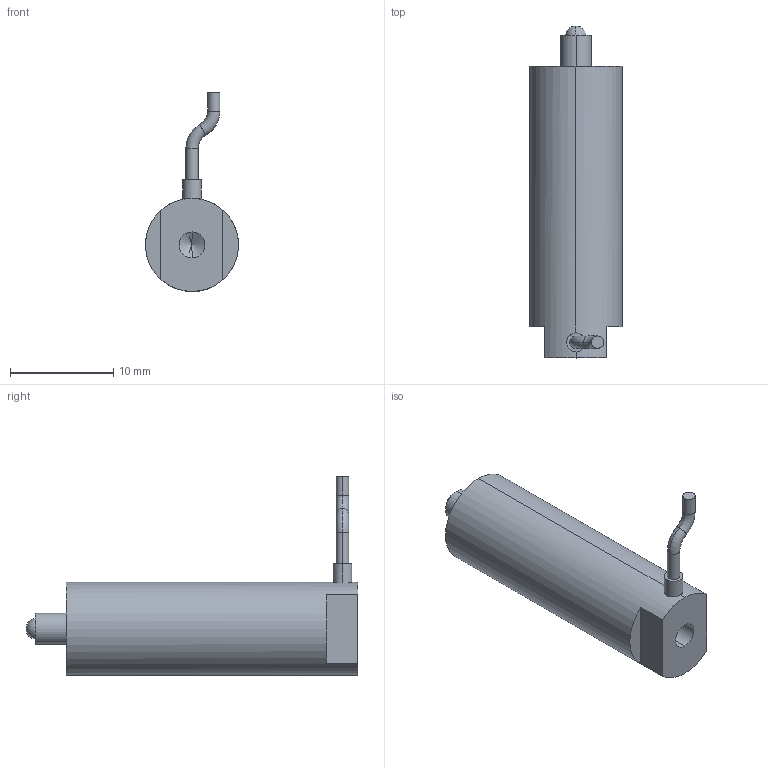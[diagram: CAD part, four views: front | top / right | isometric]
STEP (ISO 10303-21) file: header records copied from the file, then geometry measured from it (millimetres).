
FILE_DESCRIPTION (( 'STEP AP203' ), '1' );
FILE_NAME ('20VS9推杆球头.STEP', '2021-07-07T08:35:37', ( '微软用户' ), ( '微软公司' ), 'SwSTEP 2.0', 'SolidWorks 2016', '' );
FILE_SCHEMA (( 'CONFIG_CONTROL_DESIGN' ));
Products named in the file (1): 20VS9芢裝⑩芛
Bounding box: 9 x 32.1 x 19.25 mm (x, y, z)
Volume: 1762 mm3; surface area: 1040.8 mm2
Topology: 1 solids, 1 shells, 912 faces, 2453 edges, 1631 vertices
Faces by surface type: bspline 509, plane 293, cylinder 102, torus 4, sphere 2, cone 2
Entity records: 42997 total; most frequent: CARTESIAN_POINT 24640, ORIENTED_EDGE 4902, EDGE_CURVE 2451, DIRECTION 1834, B_SPLINE_CURVE_WITH_KNOTS 1676, VERTEX_POINT 1631, EDGE_LOOP 1002, FACE_OUTER_BOUND 912
